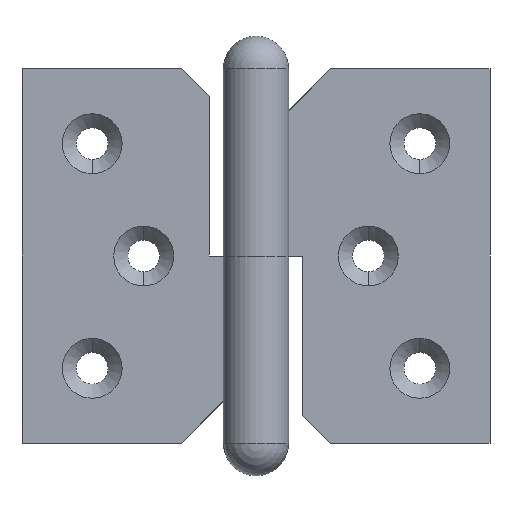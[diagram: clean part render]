
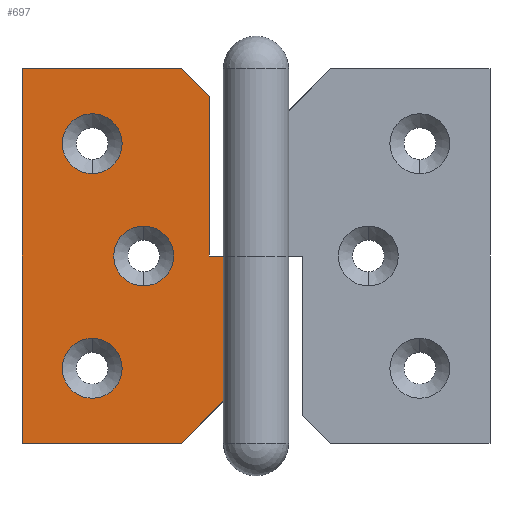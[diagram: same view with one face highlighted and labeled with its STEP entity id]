
A CAD part, front view. The second image highlights one B-rep face of the part: STEP entity #697.
In plain terms, the highlighted planar face has unit normal (0, -1, 0).
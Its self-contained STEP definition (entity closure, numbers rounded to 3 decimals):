
#157=CARTESIAN_POINT('',(-3.464,0.5,-20.0));
#158=VERTEX_POINT('',#157);
#166=CARTESIAN_POINT('',(-3.464,0.5,-35.464));
#167=VERTEX_POINT('',#166);
#168=CARTESIAN_POINT('',(-3.464,0.5,-20.0));
#169=DIRECTION('',(0.0,0.0,-1.0));
#170=VECTOR('',#169,15.464);
#171=LINE('',#168,#170);
#172=EDGE_CURVE('',#158,#167,#171,.T.);
#208=CARTESIAN_POINT('',(-12.0,0.5,-16.8));
#209=VERTEX_POINT('',#208);
#225=CARTESIAN_POINT('',(-12.0,0.5,-23.2));
#226=VERTEX_POINT('',#225);
#233=CARTESIAN_POINT('',(-12.0,0.5,-20.0));
#234=DIRECTION('',(0.0,1.0,0.0));
#235=DIRECTION('',(0.0,0.0,1.0));
#236=AXIS2_PLACEMENT_3D('',#233,#234,#235);
#237=CIRCLE('',#236,3.2);
#238=EDGE_CURVE('',#209,#226,#237,.T.);
#250=CARTESIAN_POINT('',(-17.5,0.5,-4.8));
#251=VERTEX_POINT('',#250);
#267=CARTESIAN_POINT('',(-17.5,0.5,-11.2));
#268=VERTEX_POINT('',#267);
#275=CARTESIAN_POINT('',(-17.5,0.5,-8.));
#276=DIRECTION('',(0.0,1.0,0.0));
#277=DIRECTION('',(0.0,0.0,1.0));
#278=AXIS2_PLACEMENT_3D('',#275,#276,#277);
#279=CIRCLE('',#278,3.2);
#280=EDGE_CURVE('',#251,#268,#279,.T.);
#292=CARTESIAN_POINT('',(-17.5,0.5,-28.8));
#293=VERTEX_POINT('',#292);
#309=CARTESIAN_POINT('',(-17.5,0.5,-35.2));
#310=VERTEX_POINT('',#309);
#317=CARTESIAN_POINT('',(-17.5,0.5,-32.));
#318=DIRECTION('',(0.0,1.0,0.0));
#319=DIRECTION('',(0.0,0.0,1.0));
#320=AXIS2_PLACEMENT_3D('',#317,#318,#319);
#321=CIRCLE('',#320,3.2);
#322=EDGE_CURVE('',#293,#310,#321,.T.);
#408=CARTESIAN_POINT('',(-5.0,0.5,-20.0));
#409=VERTEX_POINT('',#408);
#410=CARTESIAN_POINT('',(-5.,0.5,-3.0));
#411=VERTEX_POINT('',#410);
#412=CARTESIAN_POINT('',(-5.0,0.5,-20.0));
#413=DIRECTION('',(0.0,0.0,1.0));
#414=VECTOR('',#413,17.0);
#415=LINE('',#412,#414);
#416=EDGE_CURVE('',#409,#411,#415,.T.);
#457=CARTESIAN_POINT('',(-8.,0.5,0.));
#458=VERTEX_POINT('',#457);
#465=CARTESIAN_POINT('',(-5.,0.5,-3.0));
#466=DIRECTION('',(-0.707,0.,0.707));
#467=VECTOR('',#466,4.243);
#468=LINE('',#465,#467);
#469=EDGE_CURVE('',#411,#458,#468,.T.);
#558=CARTESIAN_POINT('',(-25.,0.5,0.));
#559=VERTEX_POINT('',#558);
#566=CARTESIAN_POINT('',(-8.,0.5,0.));
#567=DIRECTION('',(-1.0,0.0,0.0));
#568=VECTOR('',#567,17.0);
#569=LINE('',#566,#568);
#570=EDGE_CURVE('',#458,#559,#569,.T.);
#581=CARTESIAN_POINT('',(-8.,0.5,-40.0));
#582=VERTEX_POINT('',#581);
#583=CARTESIAN_POINT('',(-8.,0.5,-40.0));
#584=DIRECTION('',(0.707,0.,0.707));
#585=VECTOR('',#584,6.415);
#586=LINE('',#583,#585);
#587=EDGE_CURVE('',#582,#167,#586,.T.);
#605=CARTESIAN_POINT('',(-17.5,0.5,-32.));
#606=DIRECTION('',(0.0,1.0,0.0));
#607=DIRECTION('',(0.0,0.0,1.0));
#608=AXIS2_PLACEMENT_3D('',#605,#606,#607);
#609=CIRCLE('',#608,3.2);
#610=EDGE_CURVE('',#310,#293,#609,.T.);
#623=CARTESIAN_POINT('',(-17.5,0.5,-8.));
#624=DIRECTION('',(0.0,1.0,0.0));
#625=DIRECTION('',(0.0,0.0,1.0));
#626=AXIS2_PLACEMENT_3D('',#623,#624,#625);
#627=CIRCLE('',#626,3.2);
#628=EDGE_CURVE('',#268,#251,#627,.T.);
#641=CARTESIAN_POINT('',(-12.0,0.5,-20.0));
#642=DIRECTION('',(0.0,1.0,0.0));
#643=DIRECTION('',(0.0,0.0,1.0));
#644=AXIS2_PLACEMENT_3D('',#641,#642,#643);
#645=CIRCLE('',#644,3.2);
#646=EDGE_CURVE('',#226,#209,#645,.T.);
#653=CARTESIAN_POINT('',(-12.5,0.5,-20.0));
#654=DIRECTION('',(0.0,-1.0,0.0));
#655=DIRECTION('',(1.0,0.0,0.0));
#656=AXIS2_PLACEMENT_3D('',#653,#654,#655);
#657=PLANE('',#656);
#658=ORIENTED_EDGE('',*,*,#416,.T.);
#659=ORIENTED_EDGE('',*,*,#469,.T.);
#660=ORIENTED_EDGE('',*,*,#570,.T.);
#661=CARTESIAN_POINT('',(-25.0,0.5,-40.0));
#662=VERTEX_POINT('',#661);
#663=CARTESIAN_POINT('',(-25.,0.5,0.));
#664=DIRECTION('',(0.0,0.0,-1.0));
#665=VECTOR('',#664,40.0);
#666=LINE('',#663,#665);
#667=EDGE_CURVE('',#559,#662,#666,.T.);
#668=ORIENTED_EDGE('',*,*,#667,.T.);
#669=CARTESIAN_POINT('',(-25.0,0.5,-40.0));
#670=DIRECTION('',(1.0,0.0,0.0));
#671=VECTOR('',#670,17.);
#672=LINE('',#669,#671);
#673=EDGE_CURVE('',#662,#582,#672,.T.);
#674=ORIENTED_EDGE('',*,*,#673,.T.);
#675=ORIENTED_EDGE('',*,*,#587,.T.);
#676=ORIENTED_EDGE('',*,*,#172,.F.);
#677=CARTESIAN_POINT('',(-3.464,0.5,-20.0));
#678=DIRECTION('',(-1.0,0.0,0.0));
#679=VECTOR('',#678,1.536);
#680=LINE('',#677,#679);
#681=EDGE_CURVE('',#158,#409,#680,.T.);
#682=ORIENTED_EDGE('',*,*,#681,.T.);
#683=EDGE_LOOP('',(#658,#659,#660,#668,#674,#675,#676,#682));
#684=FACE_OUTER_BOUND('',#683,.T.);
#685=ORIENTED_EDGE('',*,*,#322,.T.);
#686=ORIENTED_EDGE('',*,*,#610,.T.);
#687=EDGE_LOOP('',(#685,#686));
#688=FACE_BOUND('',#687,.T.);
#689=ORIENTED_EDGE('',*,*,#280,.T.);
#690=ORIENTED_EDGE('',*,*,#628,.T.);
#691=EDGE_LOOP('',(#689,#690));
#692=FACE_BOUND('',#691,.T.);
#693=ORIENTED_EDGE('',*,*,#238,.T.);
#694=ORIENTED_EDGE('',*,*,#646,.T.);
#695=EDGE_LOOP('',(#693,#694));
#696=FACE_BOUND('',#695,.T.);
#697=ADVANCED_FACE('',(#684,#688,#692,#696),#657,.T.);
